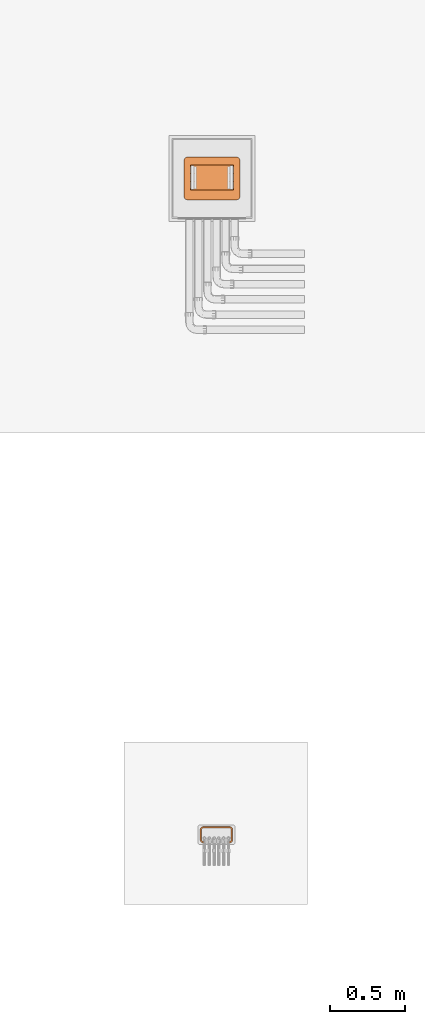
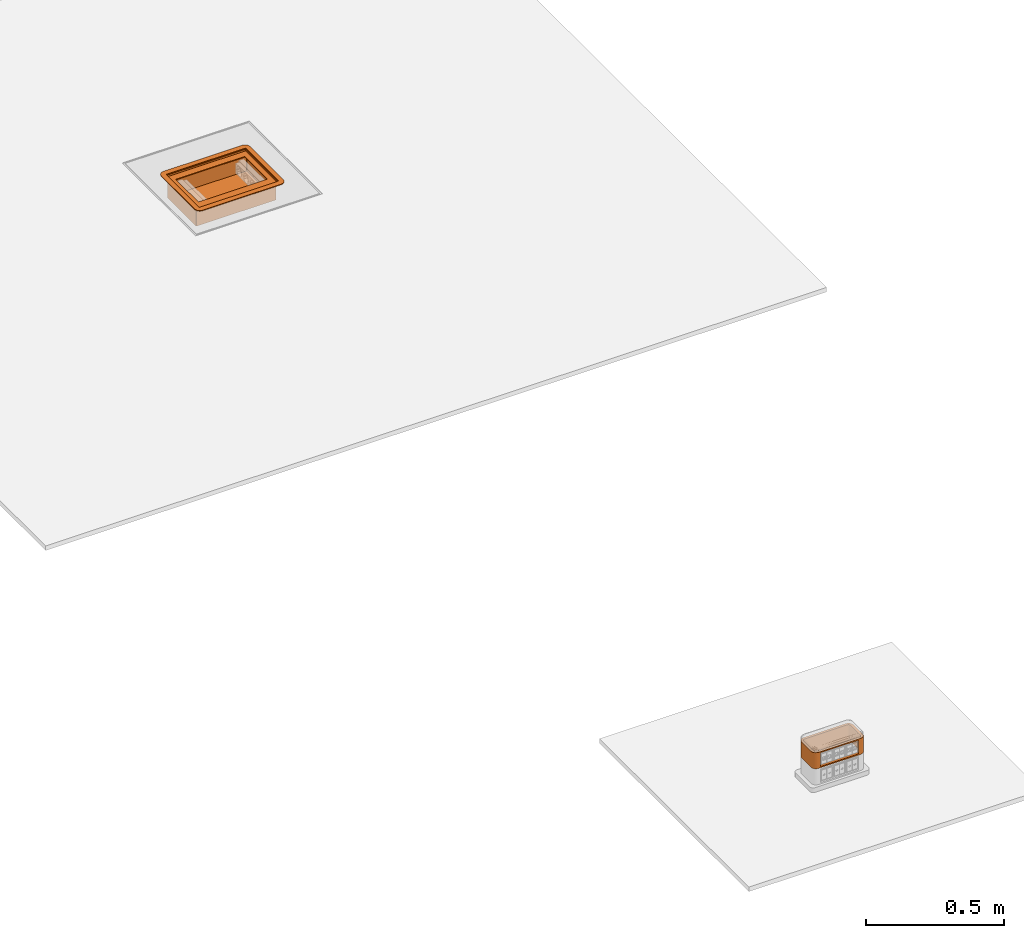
# One storey, part 43 of 87: 2 proxies.
"""IFC2X3 building model written with IfcOpenShell, lengths in millimetres."""

from ifc_helpers import new_model, entity, si_unit, converted_unit, derived_unit, direction, frame, frame_2d, origin, place, context, subcontext, project, spatial, polyline, circle_curve, parameter, trimmed, segment, composite_curve, outline, extrude, faceted_brep, source, transform, mapped, material, type_object, type_shapes, element, save


model = new_model("IFC2X3")

# Units and contexts
model_context = context("Model", 3, precision=0.01, world=origin(), true_north=direction((6.12303176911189e-17, 1.0)))
body_context = subcontext(model_context, "Body", "Model", "MODEL_VIEW")
ifc_project = project(units=[si_unit("LENGTHUNIT", "METRE", prefix="MILLI"), si_unit("AREAUNIT", "SQUARE_METRE"), si_unit("VOLUMEUNIT", "CUBIC_METRE"), converted_unit("PLANEANGLEUNIT", "DEGREE", entity("IfcRatioMeasure", 0.0174532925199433), si_unit("PLANEANGLEUNIT", "RADIAN"), dimensions=[0, 0, 0, 0, 0, 0, 0]), si_unit("MASSUNIT", "GRAM", prefix="KILO"), derived_unit("MASSDENSITYUNIT", [(si_unit("MASSUNIT", "GRAM", prefix="KILO"), 1), (si_unit("LENGTHUNIT", "METRE"), -3)]), si_unit("TIMEUNIT", "SECOND"), si_unit("FREQUENCYUNIT", "HERTZ"), si_unit("THERMODYNAMICTEMPERATUREUNIT", "DEGREE_CELSIUS"), derived_unit("THERMALTRANSMITTANCEUNIT", [(si_unit("MASSUNIT", "GRAM", prefix="KILO"), 1), (si_unit("THERMODYNAMICTEMPERATUREUNIT", "KELVIN"), -1), (si_unit("TIMEUNIT", "SECOND"), -3)]), derived_unit("VOLUMETRICFLOWRATEUNIT", [(si_unit("LENGTHUNIT", "METRE"), 3), (si_unit("TIMEUNIT", "SECOND"), -1)]), si_unit("ELECTRICCURRENTUNIT", "AMPERE"), si_unit("ELECTRICVOLTAGEUNIT", "VOLT"), si_unit("POWERUNIT", "WATT"), si_unit("FORCEUNIT", "NEWTON", prefix="KILO"), si_unit("ILLUMINANCEUNIT", "LUX"), si_unit("LUMINOUSFLUXUNIT", "LUMEN"), si_unit("LUMINOUSINTENSITYUNIT", "CANDELA"), derived_unit("USERDEFINED", [(si_unit("MASSUNIT", "GRAM", prefix="KILO"), -1), (si_unit("LENGTHUNIT", "METRE"), -2), (si_unit("TIMEUNIT", "SECOND"), 3), (si_unit("LUMINOUSFLUXUNIT", "LUMEN"), 1)]), derived_unit("LINEARVELOCITYUNIT", [(si_unit("LENGTHUNIT", "METRE"), 1), (si_unit("TIMEUNIT", "SECOND"), -1)]), si_unit("PRESSUREUNIT", "PASCAL"), derived_unit("USERDEFINED", [(si_unit("LENGTHUNIT", "METRE"), -2), (si_unit("MASSUNIT", "GRAM", prefix="KILO"), 1), (si_unit("TIMEUNIT", "SECOND"), -2)])], contexts=[model_context])

# Site, building, storey
site_placement = place(None, origin())
site = spatial("IfcSite", under=ifc_project, at=site_placement, Name="Default", CompositionType="ELEMENT")
building_placement = place(site_placement, origin())
building = spatial("IfcBuilding", under=site, at=building_placement, Name="Наименование здания", CompositionType="ELEMENT")
storey_placement = place(building_placement, origin())
storey = spatial("IfcBuildingStorey", under=building, at=storey_placement, Name="Этаж 01", CompositionType="ELEMENT", Elevation=0.0)

# Proxies
building_element_proxy_type_1 = type_object("IfcBuildingElementProxyType", Name="Лючок", PredefinedType="NOTDEFINED")
shared_shape_1 = source(origin(), body_context, "Body", "SweptSolid", [
    extrude(outline(composite_curve([segment(polyline([(-164.597281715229, -119.98320373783), (164.597281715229, -119.98320373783)]), True, "CONTINUOUS"), segment(trimmed(circle_curve(frame_2d((164.597281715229, -117.575646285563), x_axis=(-1.0, 0.0)), 2.40755745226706), [parameter(90.0000000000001)], [parameter(179.999999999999)], True, "PARAMETER"), True, "CONTINUOUS"), segment(polyline([(167.004839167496, -117.575646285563), (167.004839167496, 117.575646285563)]), True, "CONTINUOUS"), segment(trimmed(circle_curve(frame_2d((164.597281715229, 117.575646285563), x_axis=(-1.0, 0.0)), 2.40755745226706), [parameter(180.0)], [parameter(270.0)], True, "PARAMETER"), True, "CONTINUOUS"), segment(polyline([(164.597281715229, 119.98320373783), (-164.597281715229, 119.98320373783)]), True, "CONTINUOUS"), segment(trimmed(circle_curve(frame_2d((-164.597281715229, 117.575646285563), x_axis=(-1.0, 0.0)), 2.40755745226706), [parameter(270.0)], [parameter(359.999999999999)], True, "PARAMETER"), True, "CONTINUOUS"), segment(polyline([(-167.004839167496, 117.575646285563), (-167.004839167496, -117.575646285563)]), True, "CONTINUOUS"), segment(trimmed(circle_curve(frame_2d((-164.597281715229, -117.575646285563), x_axis=(-1.0, 0.0)), 2.40755745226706), [parameter(0.0)], [parameter(90.0000000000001)], True, "PARAMETER"), True, "CONTINUOUS")], self_intersect=False), holes=[composite_curve([segment(trimmed(circle_curve(frame_2d((-161.597281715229, -114.575646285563), x_axis=(-1.0, 0.0)), 2.40755745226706), [parameter(4.07110999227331e-13)], [parameter(90.0000000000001)], True, "PARAMETER"), False, "CONTINUOUS"), segment(polyline([(-164.004839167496, -114.575646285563), (-164.004839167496, 114.575646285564)]), True, "CONTINUOUS"), segment(trimmed(circle_curve(frame_2d((-161.597281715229, 114.575646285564), x_axis=(-1.0, 0.0)), 2.40755745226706), [parameter(269.999999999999)], [parameter(8.14221998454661e-13)], True, "PARAMETER"), False, "CONTINUOUS"), segment(polyline([(-161.597281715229, 116.983203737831), (161.597281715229, 116.983203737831)]), True, "CONTINUOUS"), segment(trimmed(circle_curve(frame_2d((161.597281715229, 114.575646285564), x_axis=(-1.0, 0.0)), 2.40755745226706), [parameter(180.000000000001)], [parameter(270.000000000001)], True, "PARAMETER"), False, "CONTINUOUS"), segment(polyline([(164.004839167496, 114.575646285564), (164.004839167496, -114.575646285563)]), True, "CONTINUOUS"), segment(trimmed(circle_curve(frame_2d((161.597281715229, -114.575646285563), x_axis=(-1.0, 0.0)), 2.40755745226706), [parameter(90.0000000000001)], [parameter(180.0)], True, "PARAMETER"), False, "CONTINUOUS"), segment(polyline([(161.597281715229, -116.98320373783), (-161.597281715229, -116.98320373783)]), True, "CONTINUOUS")], self_intersect=False)]), frame((0.0, 0.0, -10.0), z_axis=(0.0, 0.0, 1.0), x_axis=(-1.0, 0.0, 0.0)), (0.0, 0.0, 1.0), 10.0000000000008),
    extrude(outline(composite_curve([segment(polyline([(-164.597281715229, -105.48320373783), (164.597281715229, -105.48320373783)]), True, "CONTINUOUS"), segment(trimmed(circle_curve(frame_2d((164.597281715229, -103.075646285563), x_axis=(-1.0, 0.0)), 2.40755745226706), [parameter(90.0000000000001)], [parameter(180.0)], True, "PARAMETER"), True, "CONTINUOUS"), segment(polyline([(167.004839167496, -103.075646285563), (167.004839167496, 103.075646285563)]), True, "CONTINUOUS"), segment(trimmed(circle_curve(frame_2d((164.597281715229, 103.075646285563), x_axis=(-1.0, 0.0)), 2.40755745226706), [parameter(180.000000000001)], [parameter(270.000000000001)], True, "PARAMETER"), True, "CONTINUOUS"), segment(polyline([(164.597281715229, 105.48320373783), (-164.597281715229, 105.48320373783)]), True, "CONTINUOUS"), segment(trimmed(circle_curve(frame_2d((-164.597281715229, 103.075646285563), x_axis=(-1.0, 0.0)), 2.40755745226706), [parameter(270.000000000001)], [parameter(360.0)], True, "PARAMETER"), True, "CONTINUOUS"), segment(polyline([(-167.004839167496, 103.075646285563), (-167.004839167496, -103.075646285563)]), True, "CONTINUOUS"), segment(trimmed(circle_curve(frame_2d((-164.597281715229, -103.075646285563), x_axis=(-1.0, 0.0)), 2.40755745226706), [parameter(0.0)], [parameter(90.0000000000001)], True, "PARAMETER"), True, "CONTINUOUS")], self_intersect=False), holes=[composite_curve([segment(trimmed(circle_curve(frame_2d((-161.597281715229, -100.075646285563), x_axis=(-1.0, 0.0)), 2.40755745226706), [parameter(4.07110999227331e-13)], [parameter(90.0000000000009)], True, "PARAMETER"), False, "CONTINUOUS"), segment(polyline([(-164.004839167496, -100.075646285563), (-164.004839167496, 100.075646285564)]), True, "CONTINUOUS"), segment(trimmed(circle_curve(frame_2d((-161.597281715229, 100.075646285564), x_axis=(-1.0, 0.0)), 2.40755745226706), [parameter(269.999999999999)], [parameter(4.07110999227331e-13)], True, "PARAMETER"), False, "CONTINUOUS"), segment(polyline([(-161.597281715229, 102.483203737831), (161.597281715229, 102.48320373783)]), True, "CONTINUOUS"), segment(trimmed(circle_curve(frame_2d((161.597281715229, 100.075646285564), x_axis=(-1.0, 0.0)), 2.40755745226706), [parameter(180.000000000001)], [parameter(270.0)], True, "PARAMETER"), False, "CONTINUOUS"), segment(polyline([(164.004839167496, 100.075646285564), (164.004839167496, -100.075646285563)]), True, "CONTINUOUS"), segment(trimmed(circle_curve(frame_2d((161.597281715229, -100.075646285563), x_axis=(-1.0, 0.0)), 2.40755745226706), [parameter(90.0000000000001)], [parameter(180.0)], True, "PARAMETER"), False, "CONTINUOUS"), segment(polyline([(161.597281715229, -102.48320373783), (-161.597281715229, -102.48320373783)]), True, "CONTINUOUS")], self_intersect=False)]), frame((0.0, 5.49999999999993, -92.5000000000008), z_axis=(0.0, 0.0, 1.0), x_axis=(-1.0, 0.0, 0.0)), (0.0, 0.0, 1.0), 85.5),
    extrude(outline(composite_curve([segment(polyline([(-161.597281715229, -102.483203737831), (161.597281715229, -102.483203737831)]), True, "CONTINUOUS"), segment(trimmed(circle_curve(frame_2d((161.597281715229, -100.075646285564), x_axis=(-1.0, 0.0)), 2.40755745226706), [parameter(90.0000000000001)], [parameter(179.999999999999)], True, "PARAMETER"), True, "CONTINUOUS"), segment(polyline([(164.004839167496, -100.075646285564), (164.004839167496, 100.075646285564)]), True, "CONTINUOUS"), segment(trimmed(circle_curve(frame_2d((161.597281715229, 100.075646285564), x_axis=(-1.0, 0.0)), 2.40755745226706), [parameter(180.000000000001)], [parameter(270.0)], True, "PARAMETER"), True, "CONTINUOUS"), segment(polyline([(161.597281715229, 102.48320373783), (-161.597281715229, 102.483203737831)]), True, "CONTINUOUS"), segment(trimmed(circle_curve(frame_2d((-161.597281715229, 100.075646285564), x_axis=(-1.0, 0.0)), 2.40755745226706), [parameter(270.0)], [parameter(360.0)], True, "PARAMETER"), True, "CONTINUOUS"), segment(polyline([(-164.004839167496, 100.075646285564), (-164.004839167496, -100.075646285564)]), True, "CONTINUOUS"), segment(trimmed(circle_curve(frame_2d((-161.597281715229, -100.075646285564), x_axis=(-1.0, 0.0)), 2.40755745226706), [parameter(0.0)], [parameter(90.0000000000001)], True, "PARAMETER"), True, "CONTINUOUS")], self_intersect=False)), frame((0.0, 5.49999999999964, -92.5000000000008), z_axis=(0.0, 0.0, 1.0), x_axis=(-1.0, 0.0, 0.0)), (0.0, 0.0, 1.0), 2.99999999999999),
    extrude(outline(composite_curve([segment(polyline([(-164.004839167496, -141.48320373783), (164.004839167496, -141.48320373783)]), True, "CONTINUOUS"), segment(trimmed(circle_curve(frame_2d((164.004839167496, -119.98320373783), x_axis=(-1.0, 0.0)), 21.4999999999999), [parameter(90.0000000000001)], [parameter(180.0)], True, "PARAMETER"), True, "CONTINUOUS"), segment(polyline([(185.504839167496, -119.98320373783), (185.504839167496, 119.983203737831)]), True, "CONTINUOUS"), segment(trimmed(circle_curve(frame_2d((164.004839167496, 119.98320373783), x_axis=(-1.0, 0.0)), 21.4999999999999), [parameter(180.0)], [parameter(270.0)], True, "PARAMETER"), True, "CONTINUOUS"), segment(polyline([(164.004839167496, 141.48320373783), (-164.004839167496, 141.48320373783)]), True, "CONTINUOUS"), segment(trimmed(circle_curve(frame_2d((-164.004839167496, 119.98320373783), x_axis=(-1.0, 0.0)), 21.4999999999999), [parameter(270.0)], [parameter(360.0)], True, "PARAMETER"), True, "CONTINUOUS"), segment(polyline([(-185.504839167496, 119.98320373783), (-185.504839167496, -119.983203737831)]), True, "CONTINUOUS"), segment(trimmed(circle_curve(frame_2d((-164.004839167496, -119.98320373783), x_axis=(-1.0, 0.0)), 21.4999999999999), [parameter(0.0)], [parameter(90.0)], True, "PARAMETER"), True, "CONTINUOUS")], self_intersect=False), holes=[polyline([(-166.004839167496, -119.98320373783), (-166.004839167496, 119.98320373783), (166.004839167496, 119.98320373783), (166.004839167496, -119.98320373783), (-166.004839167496, -119.98320373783)])]), frame((0.0, 0.0, 0.0), z_axis=(0.0, 0.0, 1.0), x_axis=(-1.0, 0.0, 0.0)), (0.0, 0.0, 1.0), 2.99999999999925),
    extrude(outline(composite_curve([segment(polyline([(-161.597281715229, -116.98320373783), (161.597281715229, -116.98320373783)]), True, "CONTINUOUS"), segment(trimmed(circle_curve(frame_2d((161.597281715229, -114.575646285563), x_axis=(-1.0, 0.0)), 2.40755745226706), [parameter(89.9999999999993)], [parameter(180.0)], True, "PARAMETER"), True, "CONTINUOUS"), segment(polyline([(164.004839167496, -114.575646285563), (164.004839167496, 114.575646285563)]), True, "CONTINUOUS"), segment(trimmed(circle_curve(frame_2d((161.597281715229, 114.575646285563), x_axis=(-1.0, 0.0)), 2.40755745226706), [parameter(180.0)], [parameter(269.999999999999)], True, "PARAMETER"), True, "CONTINUOUS"), segment(polyline([(161.597281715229, 116.98320373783), (-161.597281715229, 116.98320373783)]), True, "CONTINUOUS"), segment(trimmed(circle_curve(frame_2d((-161.597281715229, 114.575646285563), x_axis=(-1.0, 0.0)), 2.40755745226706), [parameter(269.999999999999)], [parameter(360.0)], True, "PARAMETER"), True, "CONTINUOUS"), segment(polyline([(-164.004839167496, 114.575646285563), (-164.004839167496, -114.575646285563)]), True, "CONTINUOUS"), segment(trimmed(circle_curve(frame_2d((-161.597281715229, -114.575646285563), x_axis=(-1.0, 0.0)), 2.40755745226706), [parameter(0.0)], [parameter(90.0000000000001)], True, "PARAMETER"), True, "CONTINUOUS")], self_intersect=False), holes=[polyline([(-144.004839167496, -87.9832037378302), (-144.004839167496, 76.9832037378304), (144.004839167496, 76.9832037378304), (144.004839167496, -87.9832037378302), (-144.004839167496, -87.9832037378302)])]), frame((0.0, 0.0, -10.0), z_axis=(0.0, 0.0, 1.0), x_axis=(-1.0, 0.0, 0.0)), (0.0, 0.0, 1.0), 3.00000000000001),
])
type_shapes(building_element_proxy_type_1, [shared_shape_1])
proxy_1_placement = place(storey_placement, frame((-16815.2403415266, 6724.43420853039, 0.0)))
element("IfcBuildingElementProxy", 1, at=proxy_1_placement, inside=storey, type_object=building_element_proxy_type_1, Name="КНС_ЛючокНапольныйНа12Модулей_ILF_DKC:Лючок", ObjectType="Лючок", context=body_context, shape_type="MappedRepresentation", body=[
    mapped(shared_shape_1, transform((0.0, 0.0, 0.0), scale=1.0)),
])
ifc_material = material(Name="DKC_Пластик_Серо-черный")
building_element_proxy_type_2 = type_object("IfcBuildingElementProxyType", Name="Вертикальное расширение напольной башенки BUS", PredefinedType="NOTDEFINED", material=ifc_material)
shared_shape_2 = source(origin(), body_context, "Body", "Brep", [
    faceted_brep([(96.660254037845, 39.0, 71.0), (97.6592582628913, 36.5881904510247, 71.0), (105.320508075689, 44.0, 71.0), (102.142135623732, 48.1421356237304, 71.0), (95.0710678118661, 41.071067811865, 71.0), (107.318516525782, 39.1763809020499, 71.0), (108.0, 34.0, 71.0), (98.0, 34.0, 71.0), (98.0, -34.0, 71.0), (108.0, -34.0, 71.0), (97.6592582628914, -36.5881904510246, 71.0), (107.318516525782, -39.17638090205, 71.0), (105.320508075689, -44.0, 71.0), (96.6602540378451, -39.0, 71.0), (102.142135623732, -48.1421356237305, 71.0), (95.0710678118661, -41.0710678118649, 71.0), (98.0, -51.3205080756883, 71.0), (93.0, -42.6602540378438, 71.0), (93.1763809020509, -53.3185165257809, 71.0), (90.5881904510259, -43.6592582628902, 71.0), (88.0, -54.0, 71.0), (88.0, -44.0, 71.0), (-88.0, -54.0, 71.0), (-88.0, -44.0, 71.0), (-90.5881904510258, -43.6592582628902, 71.0), (-93.1763809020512, -53.3185165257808, 71.0), (-93.0, -42.6602540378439, 71.0), (-98.0, -51.3205080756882, 71.0), (-95.0710678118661, -41.071067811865, 71.0), (-102.142135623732, -48.1421356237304, 71.0), (-96.660254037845, -39.0, 71.0), (-105.320508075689, -44.0, 71.0), (-97.6592582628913, -36.5881904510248, 71.0), (-107.318516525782, -39.1763809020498, 71.0), (-108.0, -34.0, 71.0), (-98.0, -34.0, 71.0), (-108.0, 34.0, 71.0), (-98.0, 34.0, 71.0), (-97.6592582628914, 36.5881904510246, 71.0), (-107.318516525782, 39.1763809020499, 71.0), (-105.320508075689, 44.0, 71.0), (-96.6602540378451, 39.0, 71.0), (-102.142135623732, 48.1421356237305, 71.0), (-95.0710678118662, 41.0710678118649, 71.0), (-98.0, 51.3205080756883, 71.0), (-93.0, 42.6602540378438, 71.0), (-93.176380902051, 53.3185165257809, 71.0), (-90.5881904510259, 43.6592582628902, 71.0), (-88.0, 54.0, 71.0), (-88.0, 44.0, 71.0), (88.0, 44.0, 71.0), (88.0, 54.0, 71.0), (90.5881904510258, 43.6592582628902, 71.0), (93.1763809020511, 53.3185165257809, 71.0), (93.0, 42.6602540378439, 71.0), (98.0, 51.3205080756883, 71.0), (-96.6602540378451, 39.0, 0.0), (-97.6592582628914, 36.5881904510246, 0.0), (-105.320508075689, 44.0, 0.0), (-102.142135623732, 48.1421356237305, 0.0), (-95.0710678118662, 41.0710678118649, 0.0), (-107.318516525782, 39.1763809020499, 0.0), (-108.0, 34.0, 0.0), (-98.0, 34.0, 0.0), (-98.0, -34.0, 0.0), (-108.0, -34.0, 0.0), (-97.6592582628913, -36.5881904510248, 0.0), (-107.318516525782, -39.1763809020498, 0.0), (-105.320508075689, -44.0, 0.0), (-96.660254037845, -39.0, 0.0), (-102.142135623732, -48.1421356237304, 0.0), (-95.0710678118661, -41.071067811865, 0.0), (-98.0, -51.3205080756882, 0.0), (-93.0, -42.6602540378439, 0.0), (-93.1763809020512, -53.3185165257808, 0.0), (-90.5881904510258, -43.6592582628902, 0.0), (-88.0, -54.0, 0.0), (-88.0, -44.0, 0.0), (88.0, -54.0, 0.0), (88.0, -44.0, 0.0), (90.5881904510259, -43.6592582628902, 0.0), (93.1763809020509, -53.3185165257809, 0.0), (93.0, -42.6602540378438, 0.0), (98.0, -51.3205080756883, 0.0), (95.0710678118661, -41.0710678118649, 0.0), (102.142135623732, -48.1421356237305, 0.0), (96.6602540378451, -39.0, 0.0), (105.320508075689, -44.0, 0.0), (97.6592582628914, -36.5881904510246, 0.0), (107.318516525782, -39.17638090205, 0.0), (108.0, -34.0, 0.0), (98.0, -34.0, 0.0), (108.0, 34.0, 0.0), (98.0, 34.0, 0.0), (97.6592582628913, 36.5881904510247, 0.0), (107.318516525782, 39.1763809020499, 0.0), (105.320508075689, 44.0, 0.0), (96.660254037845, 39.0, 0.0), (102.142135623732, 48.1421356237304, 0.0), (95.0710678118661, 41.071067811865, 0.0), (98.0, 51.3205080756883, 0.0), (93.0, 42.6602540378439, 0.0), (93.1763809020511, 53.3185165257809, 0.0), (90.5881904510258, 43.6592582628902, 0.0), (88.0, 54.0, 0.0), (88.0, 44.0, 0.0), (-88.0, 44.0, 0.0), (-88.0, 54.0, 0.0), (-90.5881904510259, 43.6592582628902, 0.0), (-93.176380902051, 53.3185165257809, 0.0), (-93.0, 42.6602540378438, 0.0), (-98.0, 51.3205080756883, 0.0), (-80.0, -54.0, 65.5000000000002), (80.0, -54.0, 65.5000000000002), (-80.0, -54.0, 5.49999999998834), (80.0, -54.0, 5.49999999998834), (80.0, -44.0, 65.5000000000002), (-80.0, -44.0, 65.5000000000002), (80.0, -44.0, 5.49999999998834), (-80.0, -44.0, 5.49999999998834)], [[[0, 1, 2]], [[3, 0, 2]], [[0, 3, 4]], [[5, 2, 1]], [[6, 5, 1]], [[1, 7, 6]], [[6, 7, 8]], [[8, 9, 6]], [[9, 8, 10]], [[9, 10, 11]], [[11, 10, 12]], [[13, 12, 10]], [[14, 12, 13]], [[15, 14, 13]], [[14, 15, 16]], [[17, 16, 15]], [[17, 18, 16]], [[19, 18, 17]], [[18, 19, 20]], [[21, 20, 19]], [[20, 21, 22]], [[23, 22, 21]], [[22, 23, 24]], [[24, 25, 22]], [[25, 24, 26]], [[25, 26, 27]], [[27, 26, 28]], [[28, 29, 27]], [[28, 30, 29]], [[29, 30, 31]], [[30, 32, 31]], [[33, 31, 32]], [[32, 34, 33]], [[32, 35, 34]], [[34, 35, 36]], [[37, 36, 35]], [[37, 38, 36]], [[39, 36, 38]], [[38, 40, 39]], [[41, 40, 38]], [[42, 40, 41]], [[42, 41, 43]], [[42, 43, 44]], [[43, 45, 44]], [[44, 45, 46]], [[45, 47, 46]], [[47, 48, 46]], [[47, 49, 48]], [[48, 49, 50]], [[50, 51, 48]], [[52, 51, 50]], [[52, 53, 51]], [[52, 54, 53]], [[55, 54, 4]], [[55, 53, 54]], [[3, 55, 4]], [[56, 57, 58]], [[59, 56, 58]], [[56, 59, 60]], [[61, 58, 57]], [[62, 61, 57]], [[57, 63, 62]], [[62, 63, 64]], [[64, 65, 62]], [[65, 64, 66]], [[65, 66, 67]], [[67, 66, 68]], [[69, 68, 66]], [[70, 68, 69]], [[71, 70, 69]], [[70, 71, 72]], [[73, 72, 71]], [[73, 74, 72]], [[75, 74, 73]], [[74, 75, 76]], [[77, 76, 75]], [[76, 77, 78]], [[79, 78, 77]], [[78, 79, 80]], [[80, 81, 78]], [[81, 80, 82]], [[81, 82, 83]], [[83, 82, 84]], [[84, 85, 83]], [[84, 86, 85]], [[85, 86, 87]], [[86, 88, 87]], [[89, 87, 88]], [[88, 90, 89]], [[88, 91, 90]], [[90, 91, 92]], [[93, 92, 91]], [[93, 94, 92]], [[95, 92, 94]], [[94, 96, 95]], [[97, 96, 94]], [[98, 96, 97]], [[98, 97, 99]], [[98, 99, 100]], [[99, 101, 100]], [[100, 101, 102]], [[101, 103, 102]], [[103, 104, 102]], [[103, 105, 104]], [[104, 105, 106]], [[106, 107, 104]], [[108, 107, 106]], [[108, 109, 107]], [[108, 110, 109]], [[111, 110, 60]], [[111, 109, 110]], [[59, 111, 60]], [[48, 51, 104, 107]], [[46, 109, 111, 44]], [[44, 111, 59, 42]], [[107, 109, 46, 48]], [[40, 58, 61, 39]], [[39, 61, 62, 36]], [[42, 59, 58, 40]], [[34, 36, 62, 65]], [[33, 67, 68, 31]], [[31, 68, 70, 29]], [[65, 67, 33, 34]], [[27, 72, 74, 25]], [[25, 74, 76, 22]], [[29, 70, 72, 27]], [[22, 112, 113]], [[112, 22, 114]], [[113, 20, 22]], [[76, 114, 22]], [[114, 76, 115]], [[78, 115, 76]], [[115, 78, 20]], [[20, 113, 115]], [[18, 81, 83, 16]], [[16, 83, 85, 14]], [[78, 81, 18, 20]], [[12, 87, 89, 11]], [[11, 89, 90, 9]], [[14, 85, 87, 12]], [[6, 9, 90, 92]], [[96, 98, 3, 2]], [[6, 92, 95, 5]], [[95, 96, 2, 5]], [[55, 100, 102, 53]], [[53, 102, 104, 51]], [[3, 98, 100, 55]], [[52, 50, 105, 103]], [[54, 52, 103, 101]], [[99, 4, 54, 101]], [[94, 93, 7, 1]], [[94, 1, 0, 97]], [[97, 0, 4, 99]], [[8, 7, 93, 91]], [[10, 8, 91, 88]], [[13, 10, 88, 86]], [[84, 15, 13, 86]], [[79, 21, 19, 80]], [[80, 19, 17, 82]], [[82, 17, 15, 84]], [[21, 116, 117]], [[116, 21, 118]], [[117, 23, 21]], [[79, 118, 21]], [[118, 79, 119]], [[77, 119, 79]], [[119, 77, 23]], [[23, 117, 119]], [[75, 73, 26, 24]], [[77, 75, 24, 23]], [[71, 28, 26, 73]], [[64, 35, 32, 66]], [[69, 66, 32, 30]], [[69, 30, 28, 71]], [[37, 35, 64, 63]], [[57, 56, 41, 38]], [[63, 57, 38, 37]], [[60, 43, 41, 56]], [[108, 106, 49, 47]], [[110, 108, 47, 45]], [[110, 45, 43, 60]], [[50, 49, 106, 105]], [[116, 113, 112, 117]], [[117, 112, 114, 119]], [[118, 119, 114, 115]], [[118, 115, 113, 116]]]),
])
type_shapes(building_element_proxy_type_2, [shared_shape_2])
proxy_2_placement = place(storey_placement, frame((-16785.7397600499, 2366.69041279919, 91.5000000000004)))
element("IfcBuildingElementProxy", 2, at=proxy_2_placement, inside=storey, type_object=building_element_proxy_type_2, material=ifc_material, Name="Вертикальное расширение напольной башенки BUS:Вертикальное расширение напольной башенки BUS", ObjectType="Вертикальное расширение напольной башенки BUS", context=body_context, shape_type="MappedRepresentation", body=[
    mapped(shared_shape_2, transform((0.0, 0.0, 0.0), scale=1.0)),
])

save(model, "model.ifc")
